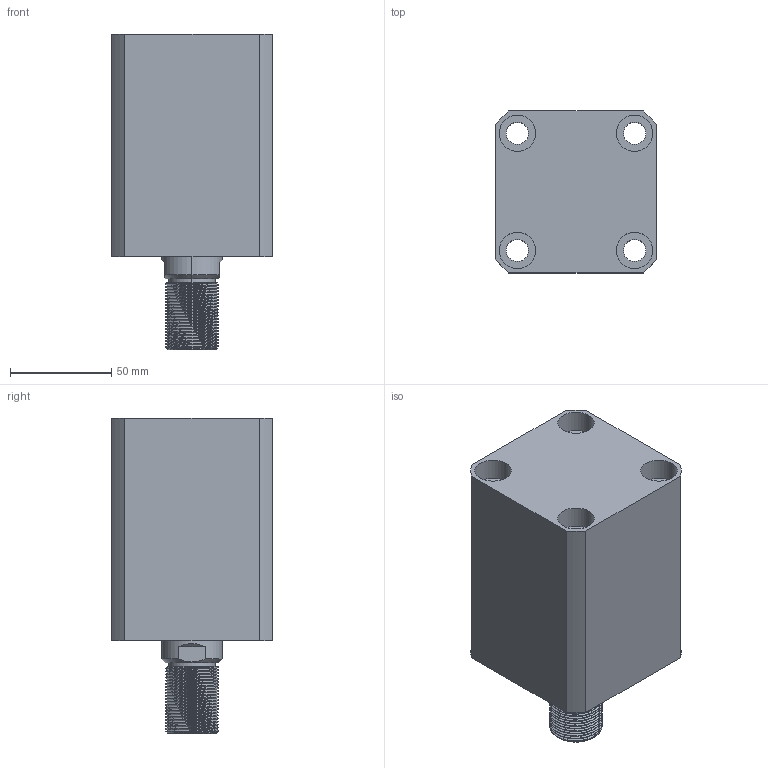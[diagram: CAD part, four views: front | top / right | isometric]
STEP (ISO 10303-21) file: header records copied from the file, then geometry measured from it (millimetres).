
FILE_DESCRIPTION (( 'STEP AP203' ), '1' );
FILE_NAME ('CHTB-SDMA50-50W.STEP', '2018-05-19T02:11:42', ( '' ), ( '' ), 'SwSTEP 2.0', 'SolidWorks 2015', '' );
FILE_SCHEMA (( 'CONFIG_CONTROL_DESIGN' ));
Length unit declared in the file: millimetre
Products named in the file (5): M6; CHTM-SDMA50QG; 掛极SDMA50-50W; 活塞杆SDMA50-50W; CHTB-SDMA50-50W
Assembly tree (5 placements, depth 2):
  CHTB-SDMA50-50W
    掛极SDMA50-50W
    活塞杆SDMA50-50W
    CHTM-SDMA50QG
    M6  x2
Bounding box: 80 x 80 x 156 mm (x, y, z)
Volume: 594925 mm3; surface area: 117490.1 mm2
Topology: 5 solids, 5 shells, 312 faces, 831 edges, 553 vertices
Faces by surface type: cylinder 179, plane 60, cone 29, bspline 28, torus 16
Entity records: 17949 total; most frequent: CARTESIAN_POINT 11067, ORIENTED_EDGE 1468, DIRECTION 1169, EDGE_CURVE 734, VERTEX_POINT 492, AXIS2_PLACEMENT_3D 472, EDGE_LOOP 320, ADVANCED_FACE 277
